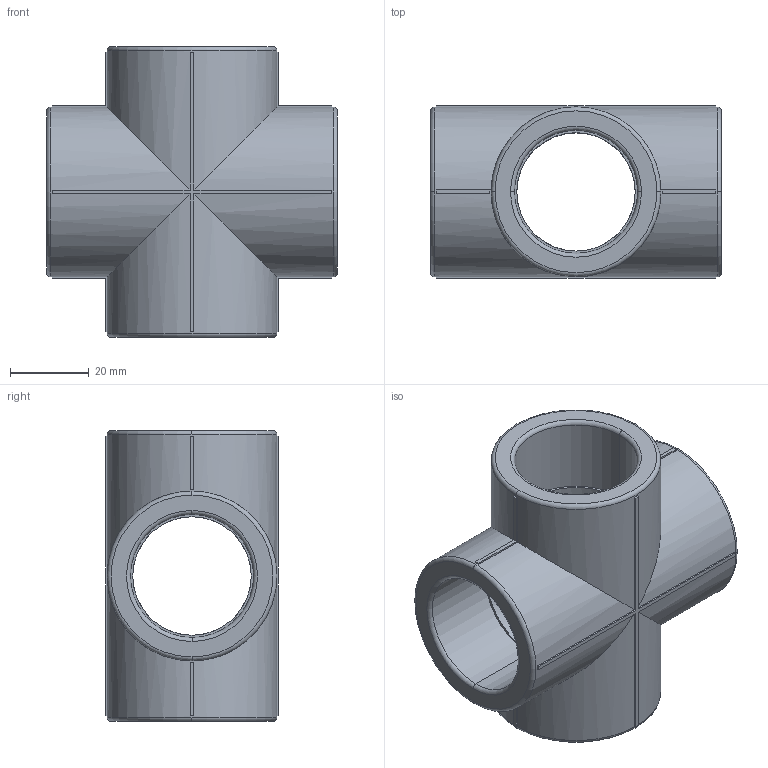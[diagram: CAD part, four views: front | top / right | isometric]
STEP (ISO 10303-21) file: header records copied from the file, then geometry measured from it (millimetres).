
FILE_DESCRIPTION (( 'STEP AP203' ), '1' );
FILE_NAME ('PPH03 FADO.STEP', '2022-08-23T14:04:41', ( '' ), ( '' ), 'SwSTEP 2.0', 'SolidWorks 2021', '' );
FILE_SCHEMA (( 'CONFIG_CONTROL_DESIGN' ));
Length unit declared in the file: millimetre
Products named in the file (1): PPH03 FADO
Bounding box: 73.7 x 43.8 x 73.7 mm (x, y, z)
Volume: 70201.2 mm3; surface area: 26009 mm2
Topology: 1 solids, 1 shells, 98 faces, 252 edges, 158 vertices
Faces by surface type: plane 58, cylinder 24, torus 16
Entity records: 3053 total; most frequent: CARTESIAN_POINT 557, DIRECTION 522, ORIENTED_EDGE 504, EDGE_CURVE 252, AXIS2_PLACEMENT_3D 187, VERTEX_POINT 158, VECTOR 148, LINE 148
